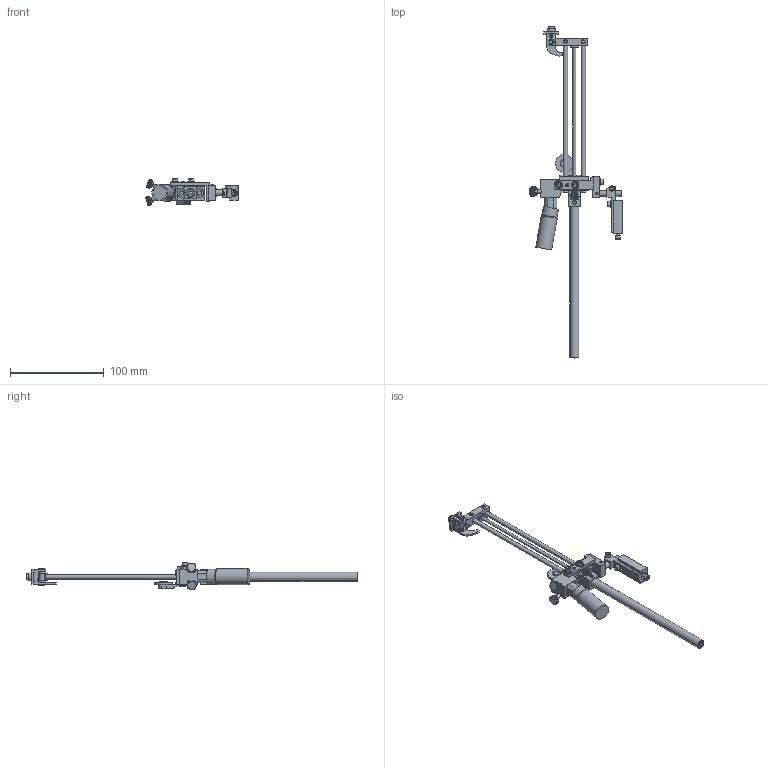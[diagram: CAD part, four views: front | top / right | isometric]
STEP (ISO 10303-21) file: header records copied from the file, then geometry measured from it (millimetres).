
FILE_DESCRIPTION((''),'2;1');
FILE_NAME('C:\Documents and Settings\Ron\My Documents\Inventor\Sprinter Drawing\Machines in Inventor\Model 22\Dot\1-fourth\Ext Str\E4\Brkt\Ext\Model 22 ES 4 1-4 dot ext w brkt.stp','2009-01-23T13:51:09',('Ron'),(''),'Autodesk Inventor 2008','Autodesk Inventor 2008','');
FILE_SCHEMA(('AUTOMOTIVE_DESIGN { 1 0 10303 214 1 1 1 1 }'));
Length unit declared in the file: inch
Products named in the file (1): Model 22 ES 4 1-4 dot ext w brkt
Bounding box: 99.17 x 354.85 x 29.56 mm (x, y, z)
Volume: 68638.4 mm3; surface area: 41240.7 mm2
Topology: 34 solids, 34 shells, 4744 faces, 13148 edges, 8733 vertices
Faces by surface type: plane 2900, bspline 1290, cylinder 484, cone 56, torus 14
Full cylindrical faces by diameter (mm): 2.845 x3, 2.946 x2, 3.175 x4, 3.505 x7, 3.556 x2, 3.658 x2, 3.876 x1, 3.962 x9, 4.064 x1, 4.166 x3, 4.648 x2, 4.699 x1, 4.75 x1, 4.763 x2, 4.775 x2, 4.788 x1, 5.41 x2, 5.74 x6, 6.096 x1, 6.325 x2, 6.35 x4, 6.477 x1, 6.655 x1, 7.925 x4, 7.938 x1, 8.128 x1, 8.334 x1, 9.462 x1, 9.525 x1, 10.922 x1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
Entity records: 165999 total; most frequent: CARTESIAN_POINT 49204, ORIENTED_EDGE 25754, DIRECTION 18464, EDGE_CURVE 12877, VECTOR 9056, LINE 9056, VERTEX_POINT 8643, EDGE_LOOP 5268
